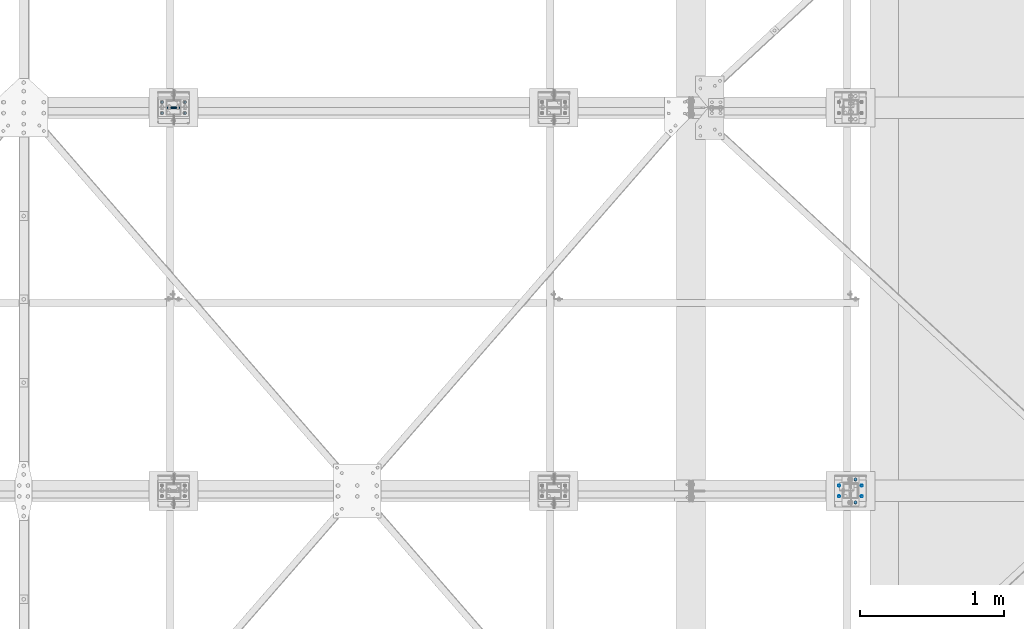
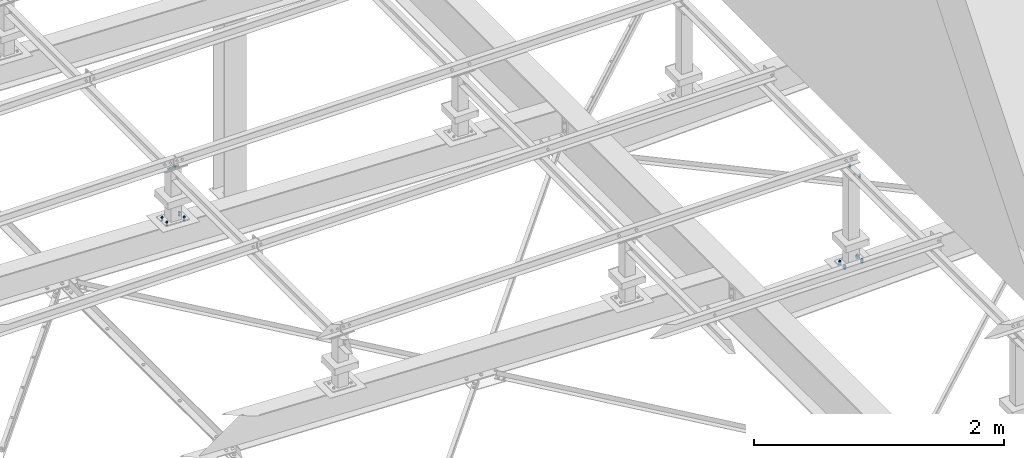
# One storey, part 175 of 3134: 5 mechanical fasteners, 4 elements without a shape of their own.
"""IFC2X3 building model written with IfcOpenShell, lengths in millimetres."""

from ifc_helpers import new_model, si_unit, frame, origin_with_axes, place, context, subcontext, project, spatial, faceted_brep, source, transform, mapped, material, type_object, element, aggregate, save


model = new_model("IFC2X3")

# Units and contexts
model_context = context("Model", 3, precision=1e-05, world=origin_with_axes())
body_context = subcontext(model_context, "Body", "Model", "MODEL_VIEW")
ifc_project = project(units=[si_unit("LENGTHUNIT", "METRE", prefix="MILLI"), si_unit("AREAUNIT", "SQUARE_METRE"), si_unit("VOLUMEUNIT", "CUBIC_METRE"), si_unit("MASSUNIT", "GRAM", prefix="KILO"), si_unit("TIMEUNIT", "SECOND"), si_unit("PLANEANGLEUNIT", "RADIAN"), si_unit("SOLIDANGLEUNIT", "STERADIAN"), si_unit("THERMODYNAMICTEMPERATUREUNIT", "DEGREE_CELSIUS"), si_unit("LUMINOUSINTENSITYUNIT", "LUMEN")], contexts=[model_context])

# Site, building, storey
site_placement = place(None, origin_with_axes())
site = spatial("IfcSite", under=ifc_project, at=site_placement, CompositionType="ELEMENT")
building_placement = place(site_placement, origin_with_axes())
building = spatial("IfcBuilding", under=site, at=building_placement, Name="Undefined", CompositionType="ELEMENT")
storey_placement = place(building_placement, origin_with_axes())
storey = spatial("IfcBuildingStorey", under=building, at=storey_placement, Name="Undefined", CompositionType="ELEMENT", Elevation=0.0)

# Assembly, mechanical fastener
assembly_1_placement = place(storey_placement, origin_with_axes())
assembly_1 = element("IfcElementAssembly", 1, at=assembly_1_placement, inside=storey, AssemblyPlace="NOTDEFINED", PredefinedType="RIGID_FRAME")
ifc_material = material(Name="8.8")
mechanical_fastener_type = type_object("IfcMechanicalFastenerType", Name="Bolt assembly")
shared_shape_1 = source(origin_with_axes(), body_context, "Body", "Brep", [
    faceted_brep([(10.9696551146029, -14.0, 0.0), (5.48482755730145, -14.0, 9.5), (-5.48482755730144, -14.0, 9.5), (-10.9696551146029, -14.0, 1.34339530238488e-15), (-5.48482755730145, -14.0, -9.5), (5.48482755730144, -14.0, -9.50000000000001), (5.48482755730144, -6.0, -9.50000000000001), (-5.48482755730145, -6.0, -9.5), (-10.9696551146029, -6.0, 1.34339530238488e-15), (-5.48482755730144, -6.0, 9.5), (5.48482755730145, -6.0, 9.5), (10.9696551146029, -6.0, 0.0), (6.0, -6.0, 0.0), (5.19615242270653, -6.0, 3.00000000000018), (2.99999999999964, -6.0, 5.19615242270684), (-6.21801588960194e-13, -6.0, 6.0), (-3.00000000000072, -6.0, 5.19615242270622), (-5.19615242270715, -6.0, 2.9999999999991), (-6.0, -6.0, -1.24360317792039e-12), (-5.19615242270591, -6.0, -3.00000000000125), (-2.99999999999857, -6.0, -5.19615242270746), (1.85874342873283e-12, -6.0, -6.0), (3.00000000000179, -6.0, -5.1961524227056), (5.19615242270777, -6.0, -2.99999999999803), (5.19615242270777, 24.0, -2.99999999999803), (3.00000000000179, 24.0, -5.1961524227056), (1.85874342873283e-12, 24.0, -6.0), (-2.99999999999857, 24.0, -5.19615242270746), (-5.19615242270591, 24.0, -3.00000000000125), (-6.0, 24.0, -1.24360317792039e-12), (-5.19615242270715, 24.0, 2.9999999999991), (-3.00000000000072, 24.0, 5.19615242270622), (-6.21801588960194e-13, 24.0, 6.0), (2.99999999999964, 24.0, 5.19615242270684), (5.19615242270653, 24.0, 3.00000000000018), (6.0, 24.0, 0.0), (10.9696551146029, 6.00000000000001, 0.0), (5.48482755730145, 6.00000000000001, 9.5), (-5.48482755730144, 6.00000000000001, 9.5), (-10.9696551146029, 6.00000000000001, 1.34339530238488e-15), (-5.48482755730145, 6.00000000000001, -9.5), (5.48482755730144, 6.00000000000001, -9.50000000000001), (5.48482755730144, 16.0, -9.50000000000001), (-5.48482755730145, 16.0, -9.5), (-10.9696551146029, 16.0, 1.34339530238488e-15), (-5.48482755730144, 16.0, 9.5), (5.48482755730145, 16.0, 9.5), (10.9696551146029, 16.0, 0.0)], [[[0, 1, 2, 3, 4, 5]], [[6, 7, 8, 9, 10, 11]], [[0, 11, 10, 1]], [[1, 10, 9, 2]], [[2, 9, 8, 3]], [[3, 8, 7, 4]], [[4, 7, 6, 5]], [[5, 6, 11, 0]], [[12, 13, 14, 15, 16, 17, 18, 19, 20, 21, 22, 23]], [[24, 25, 26, 27, 28, 29, 30, 31, 32, 33, 34, 35]], [[12, 35, 34, 13]], [[13, 34, 33, 14]], [[14, 33, 32, 15]], [[15, 32, 31, 16]], [[16, 31, 30, 17]], [[17, 30, 29, 18]], [[18, 29, 28, 19]], [[19, 28, 27, 20]], [[20, 27, 26, 21]], [[21, 26, 25, 22]], [[22, 25, 24, 23]], [[23, 24, 35, 12]], [[36, 37, 38, 39, 40, 41]], [[42, 43, 44, 45, 46, 47]], [[36, 47, 46, 37]], [[37, 46, 45, 38]], [[38, 45, 44, 39]], [[39, 44, 43, 40]], [[40, 43, 42, 41]], [[41, 42, 47, 36]]]),
    faceted_brep([(7.0, -5.9, 0.0), (6.06217782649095, -5.9, 3.50000000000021), (3.49999999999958, -5.9, 6.06217782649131), (-7.25435187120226e-13, -5.9, 7.0), (-3.50000000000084, -5.9, 6.06217782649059), (-6.06217782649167, -5.9, 3.49999999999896), (-7.0, -5.9, -1.45087037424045e-12), (-6.06217782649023, -5.9, -3.50000000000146), (-3.49999999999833, -5.9, -6.06217782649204), (2.1685340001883e-12, -5.9, -7.0), (3.50000000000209, -5.9, -6.06217782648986), (6.0621778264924, -5.9, -3.4999999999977), (6.0621778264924, 0.0999999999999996, -3.4999999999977), (3.50000000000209, 0.0999999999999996, -6.06217782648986), (2.1685340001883e-12, 0.0999999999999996, -7.0), (-3.49999999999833, 0.0999999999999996, -6.06217782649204), (-6.06217782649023, 0.0999999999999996, -3.50000000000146), (-7.0, 0.0999999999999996, -1.45087037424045e-12), (-6.06217782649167, 0.0999999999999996, 3.49999999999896), (-3.50000000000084, 0.0999999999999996, 6.06217782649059), (-7.25435187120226e-13, 0.0999999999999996, 7.0), (3.49999999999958, 0.0999999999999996, 6.06217782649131), (6.06217782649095, 0.0999999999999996, 3.50000000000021), (7.0, 0.0999999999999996, 0.0), (7.0, -0.1, 0.0), (6.06217782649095, -0.1, 3.50000000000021), (3.49999999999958, -0.1, 6.06217782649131), (-7.25435187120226e-13, -0.1, 7.0), (-3.50000000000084, -0.1, 6.06217782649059), (-6.06217782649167, -0.1, 3.49999999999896), (-7.0, -0.1, -1.45087037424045e-12), (-6.06217782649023, -0.1, -3.50000000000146), (-3.49999999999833, -0.1, -6.06217782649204), (2.1685340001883e-12, -0.1, -7.0), (3.50000000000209, -0.1, -6.06217782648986), (6.0621778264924, -0.1, -3.4999999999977), (6.0621778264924, 6.00000000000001, -3.4999999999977), (3.50000000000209, 6.00000000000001, -6.06217782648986), (2.1685340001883e-12, 6.00000000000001, -7.0), (-3.49999999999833, 6.00000000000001, -6.06217782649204), (-6.06217782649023, 6.00000000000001, -3.50000000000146), (-7.0, 6.00000000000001, -1.45087037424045e-12), (-6.06217782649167, 6.00000000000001, 3.49999999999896), (-3.50000000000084, 6.00000000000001, 6.06217782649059), (-7.25435187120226e-13, 6.00000000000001, 7.0), (3.49999999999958, 6.00000000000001, 6.06217782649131), (6.06217782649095, 6.00000000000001, 3.50000000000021), (7.0, 6.00000000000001, 0.0)], [[[0, 1, 2, 3, 4, 5, 6, 7, 8, 9, 10, 11]], [[12, 13, 14, 15, 16, 17, 18, 19, 20, 21, 22, 23]], [[0, 23, 22, 1]], [[1, 22, 21, 2]], [[2, 21, 20, 3]], [[3, 20, 19, 4]], [[4, 19, 18, 5]], [[5, 18, 17, 6]], [[6, 17, 16, 7]], [[7, 16, 15, 8]], [[8, 15, 14, 9]], [[9, 14, 13, 10]], [[10, 13, 12, 11]], [[11, 12, 23, 0]], [[24, 25, 26, 27, 28, 29, 30, 31, 32, 33, 34, 35]], [[36, 37, 38, 39, 40, 41, 42, 43, 44, 45, 46, 47]], [[24, 47, 46, 25]], [[25, 46, 45, 26]], [[26, 45, 44, 27]], [[27, 44, 43, 28]], [[28, 43, 42, 29]], [[29, 42, 41, 30]], [[30, 41, 40, 31]], [[31, 40, 39, 32]], [[32, 39, 38, 33]], [[33, 38, 37, 34]], [[34, 37, 36, 35]], [[35, 36, 47, 24]]]),
])
mechanical_fastener_1_placement = place(assembly_1_placement, frame((10440.0, 32163.75, 4265.0), z_axis=(-1.0, 0.0, 0.0), x_axis=(0.0, 1.0, 0.0)))
mechanical_fastener_1 = element("IfcMechanicalFastener", 2, at=mechanical_fastener_1_placement, type_object=mechanical_fastener_type, material=ifc_material, Name="Bolt assembly", NominalDiameter=12.0, NominalLength=30.0, context=body_context, shape_type="MappedRepresentation", body=[
    mapped(shared_shape_1, transform((0.0, 0.0, 0.0))),
    mapped(shared_shape_1, transform((160.0, 0.0, 0.0))),
])
aggregate(assembly_1, [mechanical_fastener_1])

assembly_2_placement = place(storey_placement, origin_with_axes())
assembly_2 = element("IfcElementAssembly", 3, at=assembly_2_placement, inside=storey, AssemblyPlace="NOTDEFINED", PredefinedType="RIGID_FRAME")
shared_shape_2 = source(origin_with_axes(), body_context, "Body", "Brep", [
    faceted_brep([(10.9696551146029, -4.18280906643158, 0.0), (5.48482755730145, -4.18280906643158, 9.5), (-5.48482755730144, -4.18280906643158, 9.5), (-10.9696551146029, -4.18280906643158, 1.34339530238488e-15), (-5.48482755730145, -4.18280906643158, -9.5), (5.48482755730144, -4.18280906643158, -9.50000000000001), (5.48482755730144, 3.81719093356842, -9.50000000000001), (-5.48482755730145, 3.81719093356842, -9.5), (-10.9696551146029, 3.81719093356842, 1.34339530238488e-15), (-5.48482755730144, 3.81719093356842, 9.5), (5.48482755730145, 3.81719093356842, 9.5), (10.9696551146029, 3.81719093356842, 0.0), (6.0, 3.81719093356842, 0.0), (5.19615242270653, 3.81719093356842, 3.00000000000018), (2.99999999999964, 3.81719093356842, 5.19615242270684), (-6.21801588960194e-13, 3.81719093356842, 6.0), (-3.00000000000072, 3.81719093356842, 5.19615242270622), (-5.19615242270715, 3.81719093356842, 2.9999999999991), (-6.0, 3.81719093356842, -1.24360317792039e-12), (-5.19615242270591, 3.81719093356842, -3.00000000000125), (-2.99999999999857, 3.81719093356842, -5.19615242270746), (1.85874342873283e-12, 3.81719093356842, -6.0), (3.00000000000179, 3.81719093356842, -5.1961524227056), (5.19615242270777, 3.81719093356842, -2.99999999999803), (5.19615242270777, 38.8171909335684, -2.99999999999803), (3.00000000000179, 38.8171909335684, -5.1961524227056), (1.85874342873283e-12, 38.8171909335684, -6.0), (-2.99999999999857, 38.8171909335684, -5.19615242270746), (-5.19615242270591, 38.8171909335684, -3.00000000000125), (-6.0, 38.8171909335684, -1.24360317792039e-12), (-5.19615242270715, 38.8171909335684, 2.9999999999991), (-3.00000000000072, 38.8171909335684, 5.19615242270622), (-6.21801588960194e-13, 38.8171909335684, 6.0), (2.99999999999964, 38.8171909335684, 5.19615242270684), (5.19615242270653, 38.8171909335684, 3.00000000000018), (6.0, 38.8171909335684, 0.0), (10.9696551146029, 23.0139082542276, 0.0), (5.48482755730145, 23.0139082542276, 9.5), (-5.48482755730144, 23.0139082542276, 9.5), (-10.9696551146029, 23.0139082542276, 1.34339530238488e-15), (-5.48482755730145, 23.0139082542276, -9.5), (5.48482755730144, 23.0139082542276, -9.50000000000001), (5.48482755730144, 33.0139082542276, -9.50000000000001), (-5.48482755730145, 33.0139082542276, -9.5), (-10.9696551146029, 33.0139082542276, 1.34339530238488e-15), (-5.48482755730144, 33.0139082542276, 9.5), (5.48482755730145, 33.0139082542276, 9.5), (10.9696551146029, 33.0139082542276, 0.0)], [[[0, 1, 2, 3, 4, 5]], [[6, 7, 8, 9, 10, 11]], [[0, 11, 10, 1]], [[1, 10, 9, 2]], [[2, 9, 8, 3]], [[3, 8, 7, 4]], [[4, 7, 6, 5]], [[5, 6, 11, 0]], [[12, 13, 14, 15, 16, 17, 18, 19, 20, 21, 22, 23]], [[24, 25, 26, 27, 28, 29, 30, 31, 32, 33, 34, 35]], [[12, 35, 34, 13]], [[13, 34, 33, 14]], [[14, 33, 32, 15]], [[15, 32, 31, 16]], [[16, 31, 30, 17]], [[17, 30, 29, 18]], [[18, 29, 28, 19]], [[19, 28, 27, 20]], [[20, 27, 26, 21]], [[21, 26, 25, 22]], [[22, 25, 24, 23]], [[23, 24, 35, 12]], [[36, 37, 38, 39, 40, 41]], [[42, 43, 44, 45, 46, 47]], [[36, 47, 46, 37]], [[37, 46, 45, 38]], [[38, 45, 44, 39]], [[39, 44, 43, 40]], [[40, 43, 42, 41]], [[41, 42, 47, 36]]]),
    faceted_brep([(7.0, 3.91719093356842, 0.0), (6.06217782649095, 3.91719093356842, 3.50000000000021), (3.49999999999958, 3.91719093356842, 6.06217782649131), (-7.25435187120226e-13, 3.91719093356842, 7.0), (-3.50000000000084, 3.91719093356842, 6.06217782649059), (-6.06217782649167, 3.91719093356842, 3.49999999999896), (-7.0, 3.91719093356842, -1.45087037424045e-12), (-6.06217782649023, 3.91719093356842, -3.50000000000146), (-3.49999999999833, 3.91719093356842, -6.06217782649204), (2.1685340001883e-12, 3.91719093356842, -7.0), (3.50000000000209, 3.91719093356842, -6.06217782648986), (6.0621778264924, 3.91719093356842, -3.4999999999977), (6.0621778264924, 13.1171907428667, -3.4999999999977), (3.50000000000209, 13.1171907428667, -6.06217782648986), (2.1685340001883e-12, 13.1171907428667, -7.0), (-3.49999999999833, 13.1171907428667, -6.06217782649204), (-6.06217782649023, 13.1171907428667, -3.50000000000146), (-7.0, 13.1171907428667, -1.45087037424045e-12), (-6.06217782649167, 13.1171907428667, 3.49999999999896), (-3.50000000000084, 13.1171907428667, 6.06217782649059), (-7.25435187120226e-13, 13.1171907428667, 7.0), (3.49999999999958, 13.1171907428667, 6.06217782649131), (6.06217782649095, 13.1171907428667, 3.50000000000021), (7.0, 13.1171907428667, 0.0), (7.0, 14.9139082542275, 0.0), (6.06217782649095, 14.9139082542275, 3.50000000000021), (3.49999999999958, 14.9139082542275, 6.06217782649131), (-7.25435187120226e-13, 14.9139082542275, 7.0), (-3.50000000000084, 14.9139082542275, 6.06217782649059), (-6.06217782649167, 14.9139082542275, 3.49999999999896), (-7.0, 14.9139082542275, -1.45087037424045e-12), (-6.06217782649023, 14.9139082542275, -3.50000000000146), (-3.49999999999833, 14.9139082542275, -6.06217782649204), (2.1685340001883e-12, 14.9139082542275, -7.0), (3.50000000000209, 14.9139082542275, -6.06217782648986), (6.0621778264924, 14.9139082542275, -3.4999999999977), (6.0621778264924, 23.0139082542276, -3.4999999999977), (3.50000000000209, 23.0139082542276, -6.06217782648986), (2.1685340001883e-12, 23.0139082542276, -7.0), (-3.49999999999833, 23.0139082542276, -6.06217782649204), (-6.06217782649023, 23.0139082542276, -3.50000000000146), (-7.0, 23.0139082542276, -1.45087037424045e-12), (-6.06217782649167, 23.0139082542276, 3.49999999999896), (-3.50000000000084, 23.0139082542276, 6.06217782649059), (-7.25435187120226e-13, 23.0139082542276, 7.0), (3.49999999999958, 23.0139082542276, 6.06217782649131), (6.06217782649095, 23.0139082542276, 3.50000000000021), (7.0, 23.0139082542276, 0.0)], [[[0, 1, 2, 3, 4, 5, 6, 7, 8, 9, 10, 11]], [[12, 13, 14, 15, 16, 17, 18, 19, 20, 21, 22, 23]], [[0, 23, 22, 1]], [[1, 22, 21, 2]], [[2, 21, 20, 3]], [[3, 20, 19, 4]], [[4, 19, 18, 5]], [[5, 18, 17, 6]], [[6, 17, 16, 7]], [[7, 16, 15, 8]], [[8, 15, 14, 9]], [[9, 14, 13, 10]], [[10, 13, 12, 11]], [[11, 12, 23, 0]], [[24, 25, 26, 27, 28, 29, 30, 31, 32, 33, 34, 35]], [[36, 37, 38, 39, 40, 41, 42, 43, 44, 45, 46, 47]], [[24, 47, 46, 25]], [[25, 46, 45, 26]], [[26, 45, 44, 27]], [[27, 44, 43, 28]], [[28, 43, 42, 29]], [[29, 42, 41, 30]], [[30, 41, 40, 31]], [[31, 40, 39, 32]], [[32, 39, 38, 33]], [[33, 38, 37, 34]], [[34, 37, 36, 35]], [[35, 36, 47, 24]]]),
])
mechanical_fastener_2_placement = place(assembly_2_placement, frame((5690.86474073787, 34950.4999999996, 3827.79222028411), z_axis=(-0.999387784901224, 0.0, 0.0349865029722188), x_axis=(0.0, -1.0, 0.0)))
mechanical_fastener_2 = element("IfcMechanicalFastener", 4, at=mechanical_fastener_2_placement, type_object=mechanical_fastener_type, material=ifc_material, Name="Bolt assembly", NominalDiameter=12.0, NominalLength=35.0, context=body_context, shape_type="MappedRepresentation", body=[
    mapped(shared_shape_2, transform((0.0, -5.32963895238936e-10, -79.9999999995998))),
    mapped(shared_shape_2, transform((76.0, -5.32963895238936e-10, -79.9999999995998))),
    mapped(shared_shape_2, transform((0.0, 5.3114490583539e-10, 79.9999999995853))),
    mapped(shared_shape_2, transform((76.0, 5.3114490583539e-10, 79.9999999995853))),
])

assembly_3_placement = place(storey_placement, origin_with_axes())
assembly_3 = element("IfcElementAssembly", 5, at=assembly_3_placement, inside=storey, Name="300", AssemblyPlace="NOTDEFINED", PredefinedType="RIGID_FRAME")
shared_shape_3 = source(origin_with_axes(), body_context, "Body", "Brep", [
    faceted_brep([(10.9696551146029, -4.1984682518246, 0.0), (5.48482755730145, -4.1984682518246, 9.5), (-5.48482755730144, -4.1984682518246, 9.5), (-10.9696551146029, -4.1984682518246, 1.34339530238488e-15), (-5.48482755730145, -4.1984682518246, -9.5), (5.48482755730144, -4.1984682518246, -9.50000000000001), (5.48482755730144, 3.8015317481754, -9.50000000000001), (-5.48482755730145, 3.8015317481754, -9.5), (-10.9696551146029, 3.8015317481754, 1.34339530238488e-15), (-5.48482755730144, 3.8015317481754, 9.5), (5.48482755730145, 3.8015317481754, 9.5), (10.9696551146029, 3.8015317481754, 0.0), (6.0, 3.8015317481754, 0.0), (5.19615242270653, 3.8015317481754, 3.00000000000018), (2.99999999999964, 3.8015317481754, 5.19615242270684), (-6.21801588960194e-13, 3.8015317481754, 6.0), (-3.00000000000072, 3.8015317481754, 5.19615242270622), (-5.19615242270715, 3.8015317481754, 2.9999999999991), (-6.0, 3.8015317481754, -1.24360317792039e-12), (-5.19615242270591, 3.8015317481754, -3.00000000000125), (-2.99999999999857, 3.8015317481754, -5.19615242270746), (1.85874342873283e-12, 3.8015317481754, -6.0), (3.00000000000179, 3.8015317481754, -5.1961524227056), (5.19615242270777, 3.8015317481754, -2.99999999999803), (5.19615242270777, 38.8015317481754, -2.99999999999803), (3.00000000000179, 38.8015317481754, -5.1961524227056), (1.85874342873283e-12, 38.8015317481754, -6.0), (-2.99999999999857, 38.8015317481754, -5.19615242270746), (-5.19615242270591, 38.8015317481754, -3.00000000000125), (-6.0, 38.8015317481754, -1.24360317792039e-12), (-5.19615242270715, 38.8015317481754, 2.9999999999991), (-3.00000000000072, 38.8015317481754, 5.19615242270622), (-6.21801588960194e-13, 38.8015317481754, 6.0), (2.99999999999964, 38.8015317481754, 5.19615242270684), (5.19615242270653, 38.8015317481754, 3.00000000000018), (6.0, 38.8015317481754, 0.0), (10.9696551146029, 23.0039050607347, 0.0), (5.48482755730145, 23.0039050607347, 9.5), (-5.48482755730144, 23.0039050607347, 9.5), (-10.9696551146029, 23.0039050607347, 1.34339530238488e-15), (-5.48482755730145, 23.0039050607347, -9.5), (5.48482755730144, 23.0039050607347, -9.50000000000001), (5.48482755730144, 33.0039050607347, -9.50000000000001), (-5.48482755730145, 33.0039050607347, -9.5), (-10.9696551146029, 33.0039050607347, 1.34339530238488e-15), (-5.48482755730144, 33.0039050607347, 9.5), (5.48482755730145, 33.0039050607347, 9.5), (10.9696551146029, 33.0039050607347, 0.0)], [[[0, 1, 2, 3, 4, 5]], [[6, 7, 8, 9, 10, 11]], [[0, 11, 10, 1]], [[1, 10, 9, 2]], [[2, 9, 8, 3]], [[3, 8, 7, 4]], [[4, 7, 6, 5]], [[5, 6, 11, 0]], [[12, 13, 14, 15, 16, 17, 18, 19, 20, 21, 22, 23]], [[24, 25, 26, 27, 28, 29, 30, 31, 32, 33, 34, 35]], [[12, 35, 34, 13]], [[13, 34, 33, 14]], [[14, 33, 32, 15]], [[15, 32, 31, 16]], [[16, 31, 30, 17]], [[17, 30, 29, 18]], [[18, 29, 28, 19]], [[19, 28, 27, 20]], [[20, 27, 26, 21]], [[21, 26, 25, 22]], [[22, 25, 24, 23]], [[23, 24, 35, 12]], [[36, 37, 38, 39, 40, 41]], [[42, 43, 44, 45, 46, 47]], [[36, 47, 46, 37]], [[37, 46, 45, 38]], [[38, 45, 44, 39]], [[39, 44, 43, 40]], [[40, 43, 42, 41]], [[41, 42, 47, 36]]]),
    faceted_brep([(7.0, 14.9039050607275, 0.0), (6.06217782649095, 14.9039050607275, 3.50000000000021), (3.49999999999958, 14.9039050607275, 6.06217782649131), (-7.25435187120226e-13, 14.9039050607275, 7.0), (-3.50000000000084, 14.9039050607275, 6.06217782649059), (-6.06217782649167, 14.9039050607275, 3.49999999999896), (-7.0, 14.9039050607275, -1.45087037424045e-12), (-6.06217782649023, 14.9039050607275, -3.50000000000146), (-3.49999999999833, 14.9039050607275, -6.06217782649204), (2.1685340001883e-12, 14.9039050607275, -7.0), (3.50000000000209, 14.9039050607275, -6.06217782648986), (6.0621778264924, 14.9039050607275, -3.4999999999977), (6.0621778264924, 23.0039050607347, -3.4999999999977), (3.50000000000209, 23.0039050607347, -6.06217782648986), (2.1685340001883e-12, 23.0039050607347, -7.0), (-3.49999999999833, 23.0039050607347, -6.06217782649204), (-6.06217782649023, 23.0039050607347, -3.50000000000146), (-7.0, 23.0039050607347, -1.45087037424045e-12), (-6.06217782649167, 23.0039050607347, 3.49999999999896), (-3.50000000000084, 23.0039050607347, 6.06217782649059), (-7.25435187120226e-13, 23.0039050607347, 7.0), (3.49999999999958, 23.0039050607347, 6.06217782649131), (6.06217782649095, 23.0039050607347, 3.50000000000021), (7.0, 23.0039050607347, 0.0), (7.0, 3.9015317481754, 0.0), (6.06217782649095, 3.9015317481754, 3.50000000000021), (3.49999999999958, 3.9015317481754, 6.06217782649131), (-7.25435187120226e-13, 3.9015317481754, 7.0), (-3.50000000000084, 3.9015317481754, 6.06217782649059), (-6.06217782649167, 3.9015317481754, 3.49999999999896), (-7.0, 3.9015317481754, -1.45087037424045e-12), (-6.06217782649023, 3.9015317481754, -3.50000000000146), (-3.49999999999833, 3.9015317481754, -6.06217782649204), (2.1685340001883e-12, 3.9015317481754, -7.0), (3.50000000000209, 3.9015317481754, -6.06217782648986), (6.0621778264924, 3.9015317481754, -3.4999999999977), (6.0621778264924, 13.1015315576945, -3.4999999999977), (3.50000000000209, 13.1015315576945, -6.06217782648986), (2.1685340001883e-12, 13.1015315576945, -7.0), (-3.49999999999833, 13.1015315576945, -6.06217782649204), (-6.06217782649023, 13.1015315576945, -3.50000000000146), (-7.0, 13.1015315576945, -1.45087037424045e-12), (-6.06217782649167, 13.1015315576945, 3.49999999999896), (-3.50000000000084, 13.1015315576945, 6.06217782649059), (-7.25435187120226e-13, 13.1015315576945, 7.0), (3.49999999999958, 13.1015315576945, 6.06217782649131), (6.06217782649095, 13.1015315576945, 3.50000000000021), (7.0, 13.1015315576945, 0.0)], [[[0, 1, 2, 3, 4, 5, 6, 7, 8, 9, 10, 11]], [[12, 13, 14, 15, 16, 17, 18, 19, 20, 21, 22, 23]], [[0, 23, 22, 1]], [[1, 22, 21, 2]], [[2, 21, 20, 3]], [[3, 20, 19, 4]], [[4, 19, 18, 5]], [[5, 18, 17, 6]], [[6, 17, 16, 7]], [[7, 16, 15, 8]], [[8, 15, 14, 9]], [[9, 14, 13, 10]], [[10, 13, 12, 11]], [[11, 12, 23, 0]], [[24, 25, 26, 27, 28, 29, 30, 31, 32, 33, 34, 35]], [[36, 37, 38, 39, 40, 41, 42, 43, 44, 45, 46, 47]], [[24, 47, 46, 25]], [[25, 46, 45, 26]], [[26, 45, 44, 27]], [[27, 44, 43, 28]], [[28, 43, 42, 29]], [[29, 42, 41, 30]], [[30, 41, 40, 31]], [[31, 40, 39, 32]], [[32, 39, 38, 33]], [[33, 38, 37, 34]], [[34, 37, 36, 35]], [[35, 36, 47, 24]]]),
])
mechanical_fastener_3_placement = place(assembly_3_placement, frame((10405.7748812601, 32205.75, 3374.2272055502), z_axis=(0.999519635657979, 0.0, 0.0309919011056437), x_axis=(0.0, 1.0, 0.0)))
mechanical_fastener_3 = element("IfcMechanicalFastener", 6, at=mechanical_fastener_3_placement, type_object=mechanical_fastener_type, material=ifc_material, Name="Bolt assembly", NominalDiameter=12.0, NominalLength=35.0, context=body_context, shape_type="MappedRepresentation", body=[
    mapped(shared_shape_3, transform((0.0, -5.32963895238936e-10, -79.9999999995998))),
    mapped(shared_shape_3, transform((76.0, -5.32963895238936e-10, -79.9999999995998))),
    mapped(shared_shape_3, transform((0.0, 5.3114490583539e-10, 79.9999999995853))),
    mapped(shared_shape_3, transform((76.0, 5.3114490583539e-10, 79.9999999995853))),
])
aggregate(assembly_3, [mechanical_fastener_3])

assembly_4_placement = place(storey_placement, origin_with_axes())
assembly_4 = element("IfcElementAssembly", 7, at=assembly_4_placement, inside=storey, AssemblyPlace="NOTDEFINED", PredefinedType="RIGID_FRAME")
shared_shape_4 = source(origin_with_axes(), body_context, "Body", "Brep", [
    faceted_brep([(7.0, 13.0000253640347, 0.0), (6.06217782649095, 13.0000253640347, 3.50000000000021), (3.49999999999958, 13.0000253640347, 6.06217782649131), (-7.25435187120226e-13, 13.0000253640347, 7.0), (-3.50000000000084, 13.0000253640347, 6.06217782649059), (-6.06217782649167, 13.0000253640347, 3.49999999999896), (-7.0, 13.0000253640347, -1.45087037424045e-12), (-6.06217782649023, 13.0000253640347, -3.50000000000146), (-3.49999999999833, 13.0000253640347, -6.06217782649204), (2.1685340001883e-12, 13.0000253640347, -7.0), (3.50000000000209, 13.0000253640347, -6.06217782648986), (6.0621778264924, 13.0000253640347, -3.4999999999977), (6.0621778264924, 15.0999999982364, -3.4999999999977), (3.50000000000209, 15.0999999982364, -6.06217782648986), (2.1685340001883e-12, 15.0999999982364, -7.0), (-3.49999999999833, 15.0999999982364, -6.06217782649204), (-6.06217782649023, 15.0999999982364, -3.50000000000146), (-7.0, 15.0999999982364, -1.45087037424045e-12), (-6.06217782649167, 15.0999999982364, 3.49999999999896), (-3.50000000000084, 15.0999999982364, 6.06217782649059), (-7.25435187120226e-13, 15.0999999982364, 7.0), (3.49999999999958, 15.0999999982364, 6.06217782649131), (6.06217782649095, 15.0999999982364, 3.50000000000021), (7.0, 15.0999999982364, 0.0)], [[[0, 1, 2, 3, 4, 5, 6, 7, 8, 9, 10, 11]], [[12, 13, 14, 15, 16, 17, 18, 19, 20, 21, 22, 23]], [[0, 23, 22, 1]], [[1, 22, 21, 2]], [[2, 21, 20, 3]], [[3, 20, 19, 4]], [[4, 19, 18, 5]], [[5, 18, 17, 6]], [[6, 17, 16, 7]], [[7, 16, 15, 8]], [[8, 15, 14, 9]], [[9, 14, 13, 10]], [[10, 13, 12, 11]], [[11, 12, 23, 0]]]),
])
mechanical_fastener_4_placement = place(assembly_4_placement, frame((10405.7748812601, 32205.75, 3374.2272055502), z_axis=(0.999519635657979, 0.0, 0.0309919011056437), x_axis=(0.0, 1.0, 0.0)))
mechanical_fastener_4 = element("IfcMechanicalFastener", 8, at=mechanical_fastener_4_placement, type_object=mechanical_fastener_type, material=ifc_material, Name="Bolt assembly", NominalDiameter=12.0, NominalLength=2.0, context=body_context, shape_type="MappedRepresentation", body=[
    mapped(shared_shape_4, transform((0.0, -5.32963895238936e-10, -79.9999999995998))),
    mapped(shared_shape_4, transform((76.0, -5.32963895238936e-10, -79.9999999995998))),
    mapped(shared_shape_4, transform((0.0, 5.3114490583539e-10, 79.9999999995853))),
    mapped(shared_shape_4, transform((76.0, 5.3114490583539e-10, 79.9999999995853))),
])
aggregate(assembly_4, [mechanical_fastener_4])

# Mechanical fastener
shared_shape_5 = source(origin_with_axes(), body_context, "Body", "Brep", [
    faceted_brep([(9.0, -50.0, 0.0), (7.79422863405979, -50.0, 4.50000000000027), (4.49999999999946, -50.0, 7.79422863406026), (-9.3270238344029e-13, -50.0, 9.0), (-4.50000000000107, -50.0, 7.79422863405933), (-7.79422863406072, -50.0, 4.49999999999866), (-9.0, -50.0, -1.86540476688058e-12), (-7.79422863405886, -50.0, -4.50000000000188), (-4.49999999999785, -50.0, -7.79422863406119), (2.78811514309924e-12, -50.0, -9.0), (4.50000000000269, -50.0, -7.7942286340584), (7.79422863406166, -50.0, -4.49999999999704), (7.79422863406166, 50.1, -4.49999999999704), (4.50000000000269, 50.1, -7.7942286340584), (2.78811514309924e-12, 50.1, -9.0), (-4.49999999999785, 50.1, -7.79422863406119), (-7.79422863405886, 50.1, -4.50000000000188), (-9.0, 50.1, -1.86540476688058e-12), (-7.79422863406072, 50.1, 4.49999999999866), (-4.50000000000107, 50.1, 7.79422863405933), (-9.3270238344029e-13, 50.1, 9.0), (4.49999999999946, 50.1, 7.79422863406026), (7.79422863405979, 50.1, 4.50000000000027), (9.0, 50.1, 0.0)], [[[0, 1, 2, 3, 4, 5, 6, 7, 8, 9, 10, 11]], [[12, 13, 14, 15, 16, 17, 18, 19, 20, 21, 22, 23]], [[0, 23, 22, 1]], [[1, 22, 21, 2]], [[2, 21, 20, 3]], [[3, 20, 19, 4]], [[4, 19, 18, 5]], [[5, 18, 17, 6]], [[6, 17, 16, 7]], [[7, 16, 15, 8]], [[8, 15, 14, 9]], [[9, 14, 13, 10]], [[10, 13, 12, 11]], [[11, 12, 23, 0]]]),
])
mechanical_fastener_5_placement = place(assembly_2_placement, frame((5691.67, 34912.5, 4345.0), z_axis=(0.0, 1.0, 0.0), x_axis=(0.0, 0.0, 1.0)))
mechanical_fastener_5 = element("IfcMechanicalFastener", 9, at=mechanical_fastener_5_placement, type_object=mechanical_fastener_type, material=ifc_material, Name="Bolt assembly", NominalDiameter=16.0, NominalLength=100.0, context=body_context, shape_type="MappedRepresentation", body=[
    mapped(shared_shape_5, transform((0.0, 0.0, 0.0))),
])

aggregate(assembly_2, [mechanical_fastener_2, mechanical_fastener_5])

save(model, "model.ifc")
